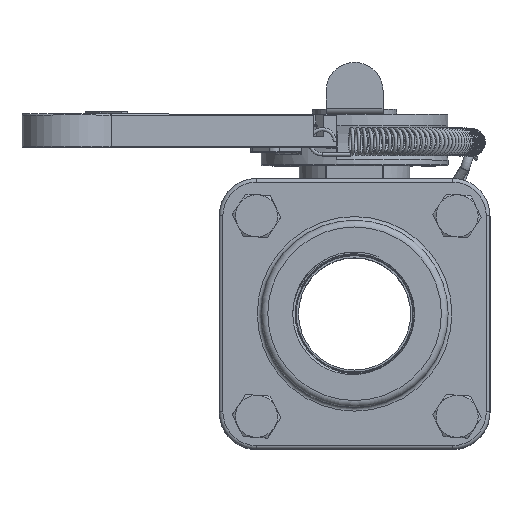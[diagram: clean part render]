
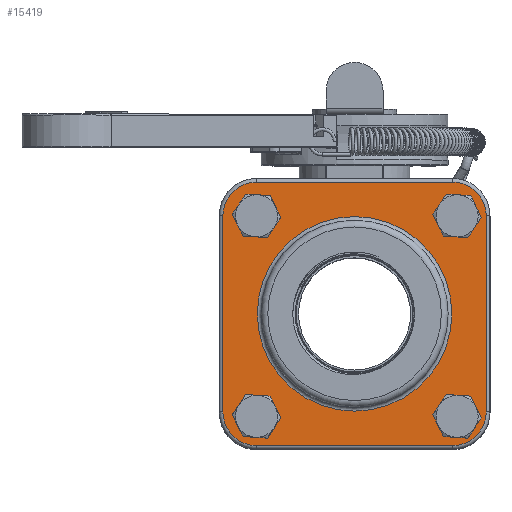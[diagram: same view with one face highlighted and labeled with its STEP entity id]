
A CAD part, top view. The second image highlights one B-rep face of the part: STEP entity #15419.
In plain terms, the highlighted planar face has unit normal (0, 0, 1) as drawn and (1, 0, 0) by its records, which use the part's own axes.
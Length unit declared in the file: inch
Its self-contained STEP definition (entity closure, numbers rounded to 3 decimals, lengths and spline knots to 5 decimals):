
#4167=PLANE('',#16513);
#4823=VECTOR('',#19030,1.);
#4826=VECTOR('',#19037,1.);
#4827=VECTOR('',#19056,1.);
#4830=VECTOR('',#19063,1.);
#5552=LINE('',#60571,#4823);
#5555=LINE('',#60578,#4826);
#5556=LINE('',#60595,#4827);
#5559=LINE('',#60602,#4830);
#6687=VERTEX_POINT('',#60542);
#6689=VERTEX_POINT('',#60547);
#6691=VERTEX_POINT('',#60552);
#6693=VERTEX_POINT('',#60557);
#6695=VERTEX_POINT('',#60561);
#6696=VERTEX_POINT('',#60563);
#6699=VERTEX_POINT('',#60570);
#6700=VERTEX_POINT('',#60575);
#6703=VERTEX_POINT('',#60582);
#6704=VERTEX_POINT('',#60587);
#6707=VERTEX_POINT('',#60594);
#6708=VERTEX_POINT('',#60599);
#6715=VERTEX_POINT('',#60626);
#7285=CIRCLE('',#16473,0.4826);
#7287=CIRCLE('',#16476,0.4826);
#7289=CIRCLE('',#16479,0.4826);
#7291=CIRCLE('',#16482,0.4826);
#7293=CIRCLE('',#16485,1.143);
#7299=CIRCLE('',#16494,1.143);
#7303=CIRCLE('',#16499,1.143);
#7307=CIRCLE('',#16506,1.143);
#7310=CIRCLE('',#16514,3.302);
#8941=EDGE_CURVE('',#6687,#6687,#7285,.T.);
#8943=EDGE_CURVE('',#6689,#6689,#7287,.T.);
#8945=EDGE_CURVE('',#6691,#6691,#7289,.T.);
#8947=EDGE_CURVE('',#6693,#6693,#7291,.T.);
#8949=EDGE_CURVE('',#6695,#6696,#7293,.T.);
#8953=EDGE_CURVE('',#6699,#6695,#5552,.T.);
#8957=EDGE_CURVE('',#6696,#6700,#5555,.T.);
#8959=EDGE_CURVE('',#6703,#6699,#7299,.T.);
#8963=EDGE_CURVE('',#6700,#6704,#7303,.T.);
#8965=EDGE_CURVE('',#6707,#6703,#5556,.T.);
#8969=EDGE_CURVE('',#6704,#6708,#5559,.T.);
#8971=EDGE_CURVE('',#6708,#6707,#7307,.T.);
#8981=EDGE_CURVE('',#6715,#6715,#7310,.T.);
#12415=ORIENTED_EDGE('',*,*,#8941,.T.);
#12416=ORIENTED_EDGE('',*,*,#8943,.T.);
#12417=ORIENTED_EDGE('',*,*,#8945,.T.);
#12418=ORIENTED_EDGE('',*,*,#8947,.T.);
#12419=ORIENTED_EDGE('',*,*,#8981,.F.);
#12420=ORIENTED_EDGE('',*,*,#8949,.F.);
#12421=ORIENTED_EDGE('',*,*,#8953,.F.);
#12422=ORIENTED_EDGE('',*,*,#8959,.F.);
#12423=ORIENTED_EDGE('',*,*,#8965,.F.);
#12424=ORIENTED_EDGE('',*,*,#8971,.F.);
#12425=ORIENTED_EDGE('',*,*,#8969,.F.);
#12426=ORIENTED_EDGE('',*,*,#8963,.F.);
#12427=ORIENTED_EDGE('',*,*,#8957,.F.);
#13686=EDGE_LOOP('',(#12415));
#13687=EDGE_LOOP('',(#12416));
#13688=EDGE_LOOP('',(#12417));
#13689=EDGE_LOOP('',(#12418));
#13690=EDGE_LOOP('',(#12419));
#13691=EDGE_LOOP('',(#12420,#12421,#12422,#12423,#12424,#12425,#12426,#12427));
#14588=FACE_BOUND('',#13686,.T.);
#14589=FACE_BOUND('',#13687,.T.);
#14590=FACE_BOUND('',#13688,.T.);
#14591=FACE_BOUND('',#13689,.T.);
#14592=FACE_BOUND('',#13690,.T.);
#14593=FACE_BOUND('',#13691,.T.);
#15419=ADVANCED_FACE('',(#14588,#14589,#14590,#14591,#14592,#14593),#4167,
 .T.);
#16473=AXIS2_PLACEMENT_3D('',#60541,#18997,#18998);
#16476=AXIS2_PLACEMENT_3D('',#60546,#19003,#19004);
#16479=AXIS2_PLACEMENT_3D('',#60551,#19009,#19010);
#16482=AXIS2_PLACEMENT_3D('',#60556,#19015,#19016);
#16485=AXIS2_PLACEMENT_3D('',#60562,#19020,#19021);
#16494=AXIS2_PLACEMENT_3D('',#60583,#19041,#19042);
#16499=AXIS2_PLACEMENT_3D('',#60590,#19050,#19051);
#16506=AXIS2_PLACEMENT_3D('',#60605,#19067,#19068);
#16513=AXIS2_PLACEMENT_3D('',#60624,#19086,$);
#16514=AXIS2_PLACEMENT_3D('',#60625,#19087,#19088);
#18997=DIRECTION('',(-1.,0.,0.));
#18998=DIRECTION('',(0.,-0.483,0.));
#19003=DIRECTION('',(-1.,0.,0.));
#19004=DIRECTION('',(0.,0.,0.483));
#19009=DIRECTION('',(-1.,0.,0.));
#19010=DIRECTION('',(0.,0.483,0.));
#19015=DIRECTION('',(-1.,0.,0.));
#19016=DIRECTION('',(0.,0.,-0.483));
#19020=DIRECTION('',(-1.,0.,0.));
#19021=DIRECTION('',(0.,0.808,0.808));
#19030=DIRECTION('',(0.,1.,0.));
#19037=DIRECTION('',(0.,0.,-1.));
#19041=DIRECTION('',(-1.,0.,0.));
#19042=DIRECTION('',(0.,-0.808,0.808));
#19050=DIRECTION('',(-1.,0.,0.));
#19051=DIRECTION('',(0.,0.808,-0.808));
#19056=DIRECTION('',(0.,0.,1.));
#19063=DIRECTION('',(0.,-1.,0.));
#19067=DIRECTION('',(-1.,0.,0.));
#19068=DIRECTION('',(0.,-0.808,-0.808));
#19086=DIRECTION('',(1.,0.,0.));
#19087=DIRECTION('',(1.,0.,0.));
#19088=DIRECTION('',(0.,0.,3.302));
#60541=CARTESIAN_POINT('',(1.6002,-3.3274,-3.3274));
#60542=CARTESIAN_POINT('',(1.6002,-2.8448,-3.3274));
#60546=CARTESIAN_POINT('',(1.6002,-3.3274,3.3274));
#60547=CARTESIAN_POINT('',(1.6002,-3.3274,2.8448));
#60551=CARTESIAN_POINT('',(1.6002,3.3274,3.3274));
#60552=CARTESIAN_POINT('',(1.6002,2.8448,3.3274));
#60556=CARTESIAN_POINT('',(1.6002,3.3274,-3.3274));
#60557=CARTESIAN_POINT('',(1.6002,3.3274,-2.8448));
#60561=CARTESIAN_POINT('',(1.6002,3.3274,4.4704));
#60562=CARTESIAN_POINT('',(1.6002,3.3274,3.3274));
#60563=CARTESIAN_POINT('',(1.6002,4.4704,3.3274));
#60570=CARTESIAN_POINT('',(1.6002,-3.3274,4.4704));
#60571=CARTESIAN_POINT('',(1.6002,0.,4.4704));
#60575=CARTESIAN_POINT('',(1.6002,4.4704,-3.3274));
#60578=CARTESIAN_POINT('',(1.6002,4.4704,0.));
#60582=CARTESIAN_POINT('',(1.6002,-4.4704,3.3274));
#60583=CARTESIAN_POINT('',(1.6002,-3.3274,3.3274));
#60587=CARTESIAN_POINT('',(1.6002,3.3274,-4.4704));
#60590=CARTESIAN_POINT('',(1.6002,3.3274,-3.3274));
#60594=CARTESIAN_POINT('',(1.6002,-4.4704,-3.3274));
#60595=CARTESIAN_POINT('',(1.6002,-4.4704,0.));
#60599=CARTESIAN_POINT('',(1.6002,-3.3274,-4.4704));
#60602=CARTESIAN_POINT('',(1.6002,0.,-4.4704));
#60605=CARTESIAN_POINT('',(1.6002,-3.3274,-3.3274));
#60624=CARTESIAN_POINT('',(1.6002,0.,0.));
#60625=CARTESIAN_POINT('',(1.6002,0.,0.));
#60626=CARTESIAN_POINT('',(1.6002,0.,-3.302));
